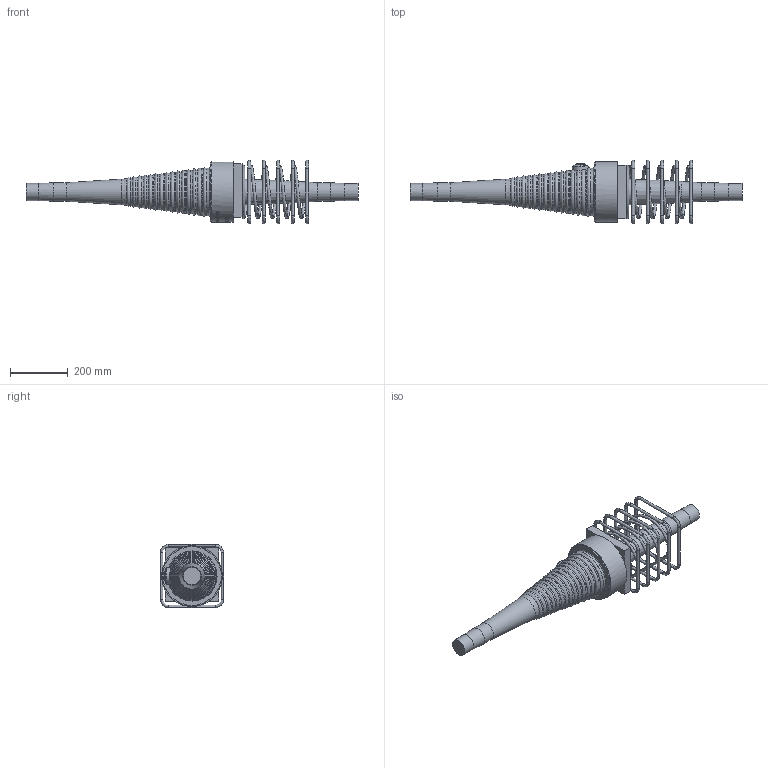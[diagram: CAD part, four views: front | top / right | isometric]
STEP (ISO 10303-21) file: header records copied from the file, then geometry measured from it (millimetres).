
FILE_DESCRIPTION(/* description */ (''),/* implementation_level */ '2;1');
FILE_NAME(/* name */ 'Z:\04 Publications\05 Give-out\BBR\6_3D_Models\BBR VT CONA CMI\BBR VT CONA CMI SP\00506\BBR VT CONA CMI SP 506_Couler K Assembly_CS-34,28.stp',/* time_stamp */ '2017-05-05T14:09:08+02:00',/* author */ ('IP'),/* organization */ (''),/* preprocessor_version */ 'ST-DEVELOPER v16.1',/* originating_system */ 'Autodesk Inventor 2016',/* authorisation */ '');
FILE_SCHEMA (('AUTOMOTIVE_DESIGN { 1 0 10303 214 3 1 1 }'));
Length unit declared in the file: millimetre
Products named in the file (1): BBR VT CONA CMI SP 506_Couler K Assembly_CS-34,28
Bounding box: 1147.87 x 220 x 220 mm (x, y, z)
Volume: 11527384 mm3; surface area: 644476.6 mm2
Topology: 7 solids, 7 shells, 852 faces, 2207 edges, 1424 vertices
Faces by surface type: bspline 404, plane 255, cylinder 90, torus 74, cone 17, sphere 12
Full cylindrical faces by diameter (mm): 10 x20, 34 x1, 57 x1, 59 x2, 64 x2, 203 x1, 210 x1
Entity records: 37347 total; most frequent: CARTESIAN_POINT 19186, ORIENTED_EDGE 4186, DIRECTION 2601, EDGE_CURVE 2092, VERTEX_POINT 1417, EDGE_LOOP 1026, AXIS2_PLACEMENT_3D 868, LINE 865
